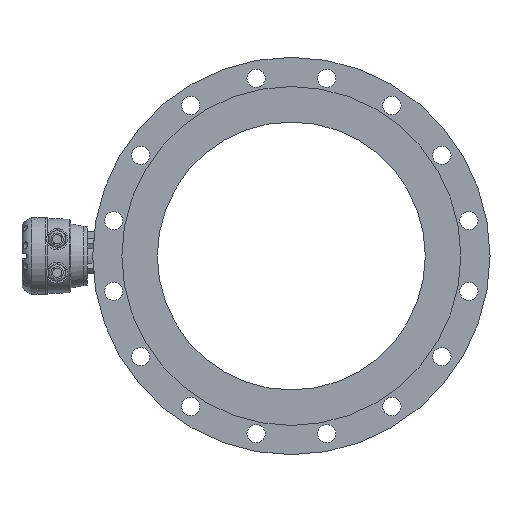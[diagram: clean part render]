
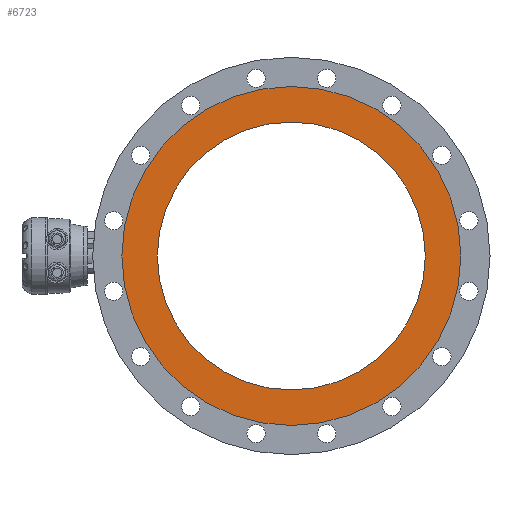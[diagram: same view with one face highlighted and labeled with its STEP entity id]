
A CAD part, left-side view. The second image highlights one B-rep face of the part: STEP entity #6723.
In plain terms, the highlighted planar face has unit normal (-1, 0, 0).
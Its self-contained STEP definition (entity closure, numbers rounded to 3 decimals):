
#66 = EDGE_CURVE ( 'NONE', #2521, #2521, #5257, .T. ) ;
#108 = EDGE_CURVE ( 'NONE', #2589, #2589, #5307, .T. ) ;
#1434 = PLANE ( 'NONE',  #8917 ) ;
#1486 = CARTESIAN_POINT ( 'NONE',  ( -294.805, -93.017, -10.543 ) ) ;
#1495 = DIRECTION ( 'NONE',  ( -1., 0., 0. ) ) ;
#1496 = DIRECTION ( 'NONE',  ( 0., 0., 1. ) ) ;
#2521 = VERTEX_POINT ( 'NONE', #2522 ) ;
#2522 = CARTESIAN_POINT ( 'NONE',  ( -294.805, -283.517, 230.457 ) ) ;
#2589 = VERTEX_POINT ( 'NONE', #2590 ) ;
#2590 = CARTESIAN_POINT ( 'NONE',  ( -294.805, -283.517, -201.043 ) ) ;
#4977 = EDGE_LOOP ( 'NONE', ( #10861 ) ) ;
#5257 = CIRCLE ( 'NONE', #8394, 241. ) ;
#5307 = CIRCLE ( 'NONE', #8443, 190.5 ) ;
#6723 = ADVANCED_FACE ( 'NONE', ( #13995, #13994 ), #1434, .T. ) ;
#7078 = DIRECTION ( 'NONE',  ( 1., 0., 0. ) ) ;
#7145 = DIRECTION ( 'NONE',  ( 0., 0., -1. ) ) ;
#7155 = CARTESIAN_POINT ( 'NONE',  ( -294.805, -283.517, -10.543 ) ) ;
#8042 = DIRECTION ( 'NONE',  ( 0., 0., 1. ) ) ;
#8155 = CARTESIAN_POINT ( 'NONE',  ( -294.805, -283.517, -10.543 ) ) ;
#8191 = DIRECTION ( 'NONE',  ( -1., 0., 0. ) ) ;
#8394 = AXIS2_PLACEMENT_3D ( 'NONE', #8155, #8191, #8042 ) ;
#8443 = AXIS2_PLACEMENT_3D ( 'NONE', #7155, #7078, #7145 ) ;
#8917 = AXIS2_PLACEMENT_3D ( 'NONE', #1486, #1495, #1496 ) ;
#10860 = ORIENTED_EDGE ( 'NONE', *, *, #108, .T. ) ;
#10861 = ORIENTED_EDGE ( 'NONE', *, *, #66, .T. ) ;
#11995 = EDGE_LOOP ( 'NONE', ( #10860 ) ) ;
#13994 = FACE_OUTER_BOUND ( 'NONE', #4977, .T. ) ;
#13995 = FACE_BOUND ( 'NONE', #11995, .T. ) ;
